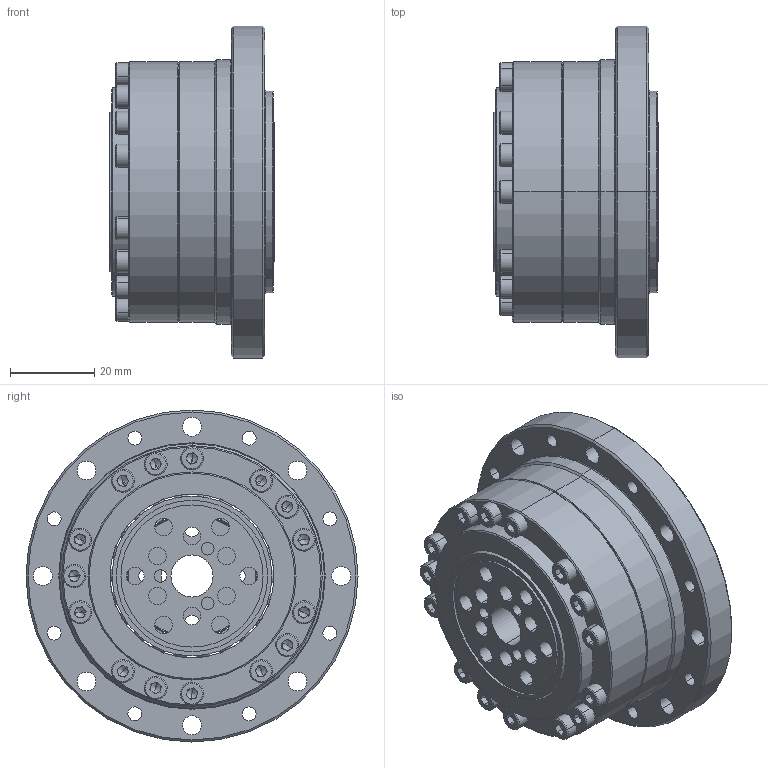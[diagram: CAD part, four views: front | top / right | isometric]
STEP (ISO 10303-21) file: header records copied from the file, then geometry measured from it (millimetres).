
FILE_DESCRIPTION (( 'STEP AP203' ), '1' );
FILE_NAME ('BCSG-17-XXX-U-¢ñ.STEP', '2019-01-15T03:30:56', ( 'User' ), ( 'China' ), 'SwSTEP 2.0', 'SolidWorks 2015', '' );
FILE_SCHEMA (( 'CONFIG_CONTROL_DESIGN' ));
Length unit declared in the file: millimetre
Products named in the file (1): BCSG-17-XXX-U-ｉ
Bounding box: 39.26 x 79 x 79 mm (x, y, z)
Surface area: 31374.8 mm2 (no closed solid volume)
Topology: 0 solids, 23 shells, 501 faces, 1609 edges, 1028 vertices
Faces by surface type: plane 163, cylinder 141, cone 85, torus 64, sphere 44, bspline 4
Entity records: 19088 total; most frequent: CARTESIAN_POINT 5601, DIRECTION 2951, ORIENTED_EDGE 2530, EDGE_CURVE 1469, AXIS2_PLACEMENT_3D 1177, VERTEX_POINT 962, CIRCLE 679, EDGE_LOOP 617
